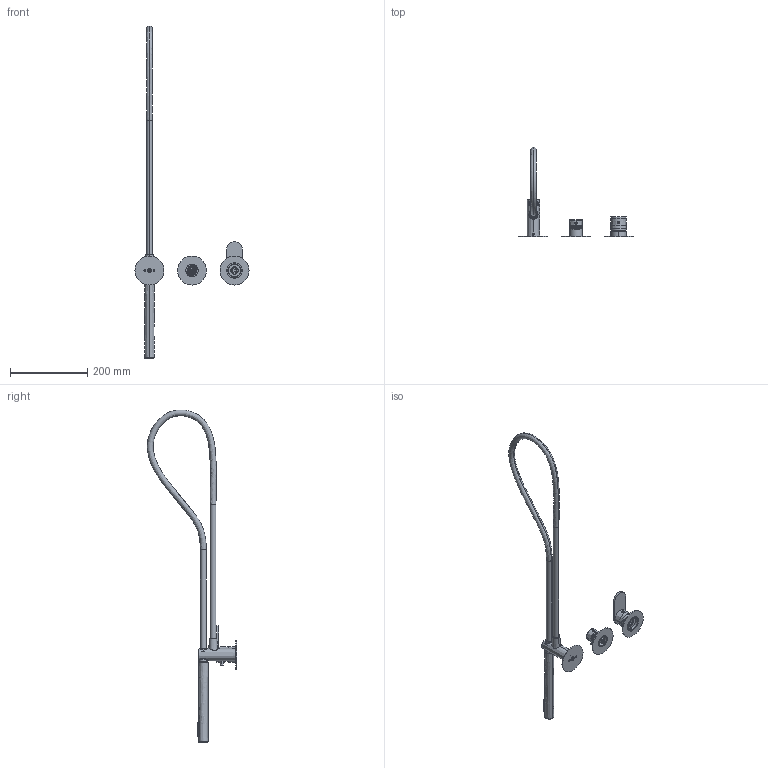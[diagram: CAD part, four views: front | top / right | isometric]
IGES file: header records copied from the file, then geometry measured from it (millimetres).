
Start section:  PTC IGES file: 79559V2.igs
Global section: file name: 79559V2.igs; native system: Creo Parametric by PTC Inc.; preprocessor: 2025443; author: carloff; organization: Unknown; date: 20261007.091825; units: millimetre
Bounding box: 295 x 230.87 x 858.64 mm (x, y, z)
Surface area: 177602.1 mm2 (no closed solid volume)
Topology: 0 solids, 0 shells, 1443 faces, 7268 edges, 7258 vertices
Faces by surface type: revolution 942, bspline 501
